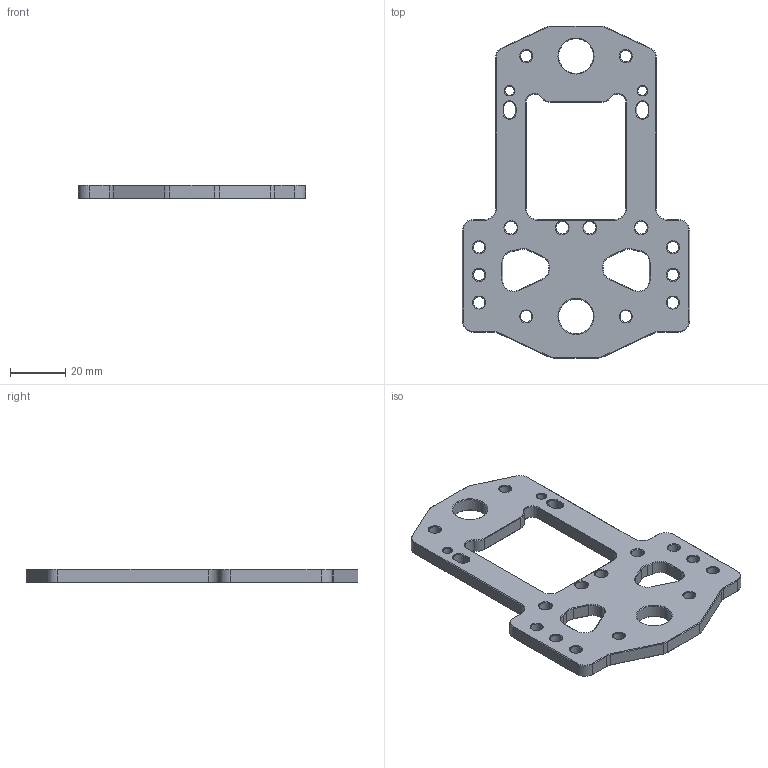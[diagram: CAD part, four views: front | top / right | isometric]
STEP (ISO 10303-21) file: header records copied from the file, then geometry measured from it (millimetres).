
FILE_DESCRIPTION (( 'STEP AP214' ), '1' );
FILE_NAME ('MAM13103a -XB- Plaque Jonction XY _ Side B.STEP', '2024-12-18T12:37:36', ( '' ), ( '' ), 'SwSTEP 2.0', 'SolidWorks 2019', '' );
FILE_SCHEMA (( 'AUTOMOTIVE_DESIGN' ));
Length unit declared in the file: millimetre
Products named in the file (1): MAM13103a -XB- Plaque Jonction XY _ Side B
Bounding box: 82 x 119.86 x 5 mm (x, y, z)
Volume: 25572.7 mm3; surface area: 14713.5 mm2
Topology: 1 solids, 1 shells, 308 faces, 714 edges, 408 vertices
Faces by surface type: cone 144, plane 92, cylinder 72
Entity records: 8854 total; most frequent: DIRECTION 1620, CARTESIAN_POINT 1431, ORIENTED_EDGE 1428, EDGE_CURVE 714, AXIS2_PLACEMENT_3D 597, LINE 426, VECTOR 426, VERTEX_POINT 408
